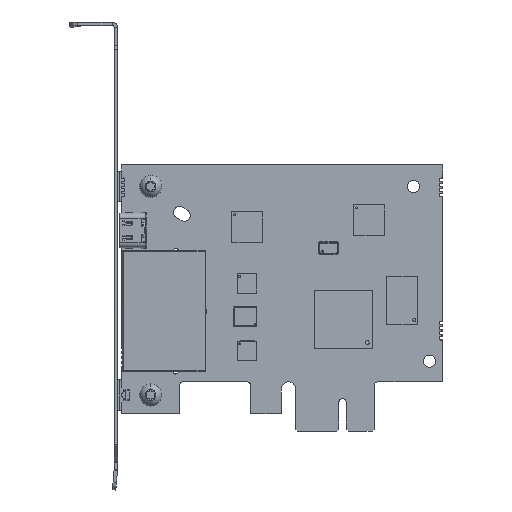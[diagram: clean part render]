
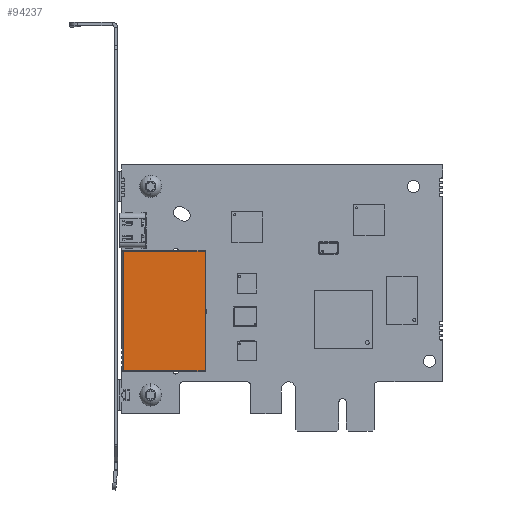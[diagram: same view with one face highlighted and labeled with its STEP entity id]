
A CAD part, top view. The second image highlights one B-rep face of the part: STEP entity #94237.
In plain terms, the highlighted planar face has unit normal (0, 0, 1).
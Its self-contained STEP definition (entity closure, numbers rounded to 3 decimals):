
#49 = CARTESIAN_POINT ( 'NONE',  ( 0.41, 21.385, 14.07 ) ) ;
#178 = ORIENTED_EDGE ( 'NONE', *, *, #63780, .T. ) ;
#639 = B_SPLINE_CURVE_WITH_KNOTS ( 'NONE', 3,
 ( #136102, #32266, #136842, #20848 ),
 .UNSPECIFIED., .F., .F.,
 ( 4, 4 ),
 ( 0., 1. ),
 .UNSPECIFIED. ) ;
#3063 = CARTESIAN_POINT ( 'NONE',  ( 0.41, 11.085, 14.07 ) ) ;
#6998 = CARTESIAN_POINT ( 'NONE',  ( 0.41, 11.085, 14.07 ) ) ;
#8501 = VERTEX_POINT ( 'NONE', #3063 ) ;
#9004 = DIRECTION ( 'NONE',  ( 1., 0., 0. ) ) ;
#13183 = ORIENTED_EDGE ( 'NONE', *, *, #132682, .T. ) ;
#19903 = CARTESIAN_POINT ( 'NONE',  ( 7.473, 11.085, 14.07 ) ) ;
#20848 = CARTESIAN_POINT ( 'NONE',  ( 21.6, 41.985, 14.07 ) ) ;
#21826 = ORIENTED_EDGE ( 'NONE', *, *, #36710, .T. ) ;
#26174 = CARTESIAN_POINT ( 'NONE',  ( 21.6, 41.985, 14.07 ) ) ;
#26952 = CARTESIAN_POINT ( 'NONE',  ( 7.473, 41.985, 14.07 ) ) ;
#27320 = FACE_OUTER_BOUND ( 'NONE', #122377, .T. ) ;
#31299 = CARTESIAN_POINT ( 'NONE',  ( 21.6, 11.085, 14.07 ) ) ;
#32266 = CARTESIAN_POINT ( 'NONE',  ( 21.6, 21.385, 14.07 ) ) ;
#33360 = VERTEX_POINT ( 'NONE', #73118 ) ;
#35166 = PLANE ( 'NONE',  #81048 ) ;
#35734 = CARTESIAN_POINT ( 'NONE',  ( 0.41, 11.085, 14.07 ) ) ;
#36710 = EDGE_CURVE ( 'NONE', #142998, #8501, #82497, .T. ) ;
#37255 = CARTESIAN_POINT ( 'NONE',  ( 0.41, 41.985, 14.07 ) ) ;
#54552 = DIRECTION ( 'NONE',  ( 0., 0., 1. ) ) ;
#58437 = CARTESIAN_POINT ( 'NONE',  ( 0.41, 41.985, 14.07 ) ) ;
#63780 = EDGE_CURVE ( 'NONE', #149985, #142998, #124227, .T. ) ;
#73118 = CARTESIAN_POINT ( 'NONE',  ( 21.6, 11.085, 14.07 ) ) ;
#81048 = AXIS2_PLACEMENT_3D ( 'NONE', #99225, #54552, #9004 ) ;
#82497 = B_SPLINE_CURVE_WITH_KNOTS ( 'NONE', 3,
 ( #58437, #116074, #49, #35734 ),
 .UNSPECIFIED., .F., .F.,
 ( 4, 4 ),
 ( 0., 1. ),
 .UNSPECIFIED. ) ;
#88808 = CARTESIAN_POINT ( 'NONE',  ( 14.537, 11.085, 14.07 ) ) ;
#94237 = ADVANCED_FACE ( 'NONE', ( #27320 ), #35166, .T. ) ;
#98834 = CARTESIAN_POINT ( 'NONE',  ( 14.537, 41.985, 14.07 ) ) ;
#99225 = CARTESIAN_POINT ( 'NONE',  ( 17.35, 26.535, 14.07 ) ) ;
#101392 = B_SPLINE_CURVE_WITH_KNOTS ( 'NONE', 3,
 ( #31299, #88808, #19903, #6998 ),
 .UNSPECIFIED., .F., .F.,
 ( 4, 4 ),
 ( 0., 1. ),
 .UNSPECIFIED. ) ;
#111253 = EDGE_CURVE ( 'NONE', #33360, #8501, #101392, .T. ) ;
#116074 = CARTESIAN_POINT ( 'NONE',  ( 0.41, 31.685, 14.07 ) ) ;
#116270 = CARTESIAN_POINT ( 'NONE',  ( 21.6, 41.985, 14.07 ) ) ;
#122377 = EDGE_LOOP ( 'NONE', ( #13183, #178, #21826, #123615 ) ) ;
#123615 = ORIENTED_EDGE ( 'NONE', *, *, #111253, .F. ) ;
#124227 = B_SPLINE_CURVE_WITH_KNOTS ( 'NONE', 3,
 ( #26174, #98834, #26952, #143665 ),
 .UNSPECIFIED., .F., .F.,
 ( 4, 4 ),
 ( 0., 1. ),
 .UNSPECIFIED. ) ;
#132682 = EDGE_CURVE ( 'NONE', #33360, #149985, #639, .T. ) ;
#136102 = CARTESIAN_POINT ( 'NONE',  ( 21.6, 11.085, 14.07 ) ) ;
#136842 = CARTESIAN_POINT ( 'NONE',  ( 21.6, 31.685, 14.07 ) ) ;
#142998 = VERTEX_POINT ( 'NONE', #37255 ) ;
#143665 = CARTESIAN_POINT ( 'NONE',  ( 0.41, 41.985, 14.07 ) ) ;
#149985 = VERTEX_POINT ( 'NONE', #116270 ) ;
